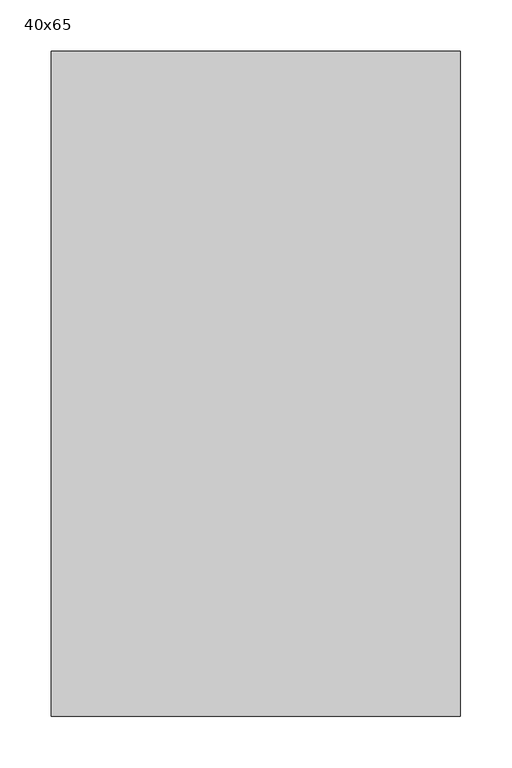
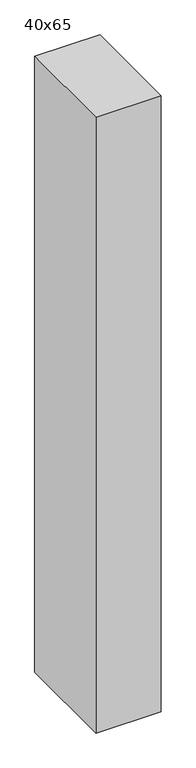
"""IFC4 building model written with IfcOpenShell, lengths in millimetres: column geometry, 混凝土柱-矩形 : 40x65."""

from ifc_helpers import new_model, si_unit, frame, origin, place, context, project, spatial, polyline, outline, extrude, source, transform, mapped, element, save


def column_40x65_6e326135(model_context):
    return source(origin(), model_context, "Body", "SweptSolid", [
        extrude(outline(polyline([(200.0, 325.0), (200.0, -325.0), (-200.0, -325.0), (-200.0, 325.0), (200.0, 325.0)])), frame((0.0, 0.0, 200.0), z_axis=(0.0, 0.0, 1.0), x_axis=(1.0, 0.0, 0.0)), (0.0, 0.0, 1.0), 4000.0),
    ])


if __name__ == "__main__":
    model = new_model("IFC4")
    model_context = context("Model", 3, world=origin())
    ifc_project = project(units=[si_unit("LENGTHUNIT", "METRE", prefix="MILLI")], contexts=[model_context])
    site = spatial("IfcSite", under=ifc_project)
    building = spatial("IfcBuilding", under=site)
    placement = place(None, origin())
    column_40x65_shape = column_40x65_6e326135(model_context)
    element("IfcColumn", 1, ObjectType="混凝土柱-矩形 : 40x65", at=placement, inside=building, context=model_context, shape_type="MappedRepresentation", body=[
        mapped(column_40x65_shape, transform((0.0, 0.0, 0.0), x_axis=(1.0, 0.0, 0.0), y_axis=(0.0, 1.0, 0.0), z_axis=(0.0, 0.0, 1.0))),
    ])
    save(model, "model.ifc")
